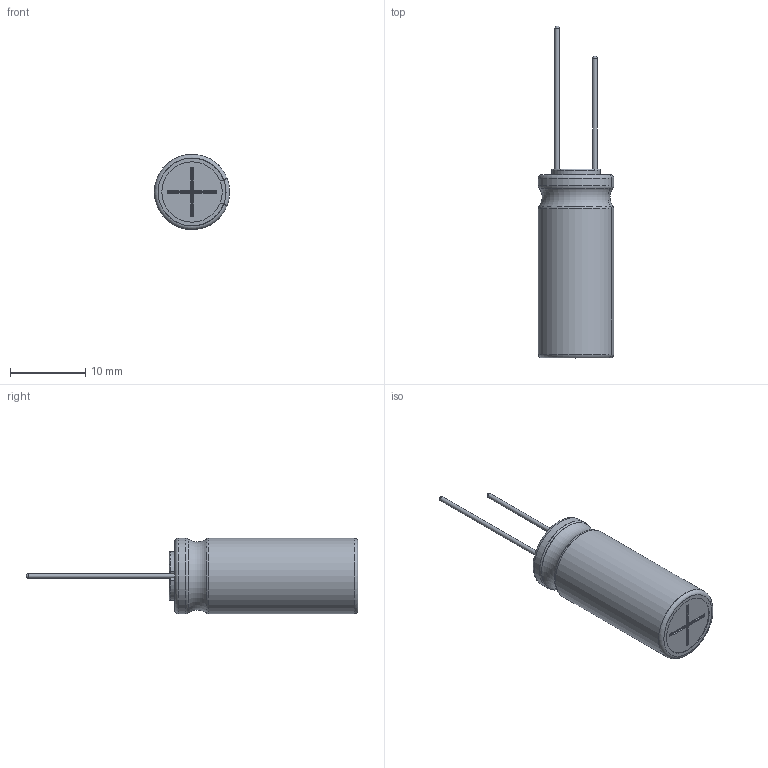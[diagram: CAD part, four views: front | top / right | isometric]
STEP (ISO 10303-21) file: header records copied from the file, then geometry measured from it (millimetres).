
FILE_DESCRIPTION(/* description */ (''),/* implementation_level */ '2;1');
FILE_NAME(/* name */ '10x25_Lead.stp',/* time_stamp */ '2017-09-05T14:12:30+09:00',/* author */ (''),/* organization */ (''),/* preprocessor_version */ 'ST-DEVELOPER v16',/* originating_system */ 'SIEMENS PLM Software NX 11.0',/* authorisation */ '');
FILE_SCHEMA (('AUTOMOTIVE_DESIGN { 1 0 10303 214 3 1 1 1 }'));
Length unit declared in the file: millimetre
Products named in the file (1): 10x25_Lead_0
Bounding box: 9.99 x 44 x 10 mm (x, y, z)
Volume: 1902.5 mm3; surface area: 2573.8 mm2
Topology: 3 solids, 3 shells, 115 faces, 288 edges, 181 vertices
Faces by surface type: cylinder 44, torus 33, plane 28, sphere 6, bspline 4
Full cylindrical faces by diameter (mm): 0.6 x2, 9.8 x2
Entity records: 4020 total; most frequent: CARTESIAN_POINT 680, DIRECTION 664, ORIENTED_EDGE 544, AXIS2_PLACEMENT_3D 280, EDGE_CURVE 272, VERTEX_POINT 176, CIRCLE 160, EDGE_LOOP 128
